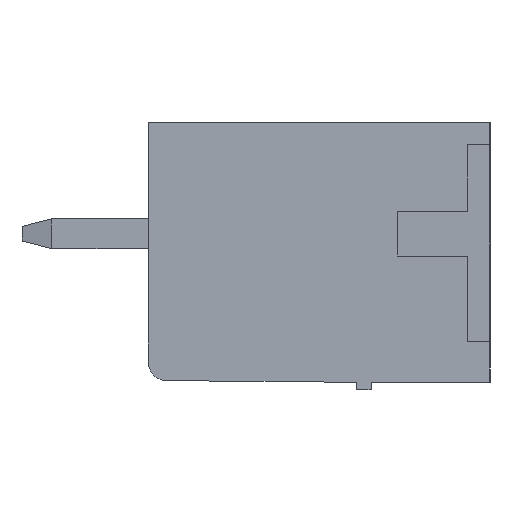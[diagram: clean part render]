
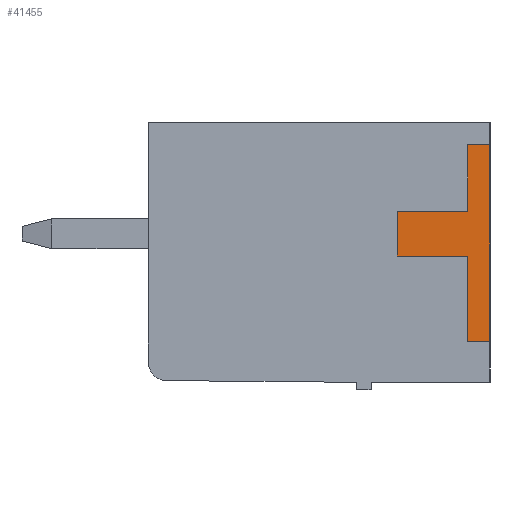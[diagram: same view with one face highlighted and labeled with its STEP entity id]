
A CAD part, left-side view. The second image highlights one B-rep face of the part: STEP entity #41455.
In plain terms, the highlighted planar face has unit normal (-1, 0, 0).
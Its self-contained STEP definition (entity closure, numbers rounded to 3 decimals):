
#100 = PLANE('',#101);
#101 = AXIS2_PLACEMENT_3D('',#102,#103,#104);
#102 = CARTESIAN_POINT('',(0.,0.,7.));
#103 = DIRECTION('',(0.,-1.,0.));
#104 = DIRECTION('',(0.,0.,-1.));
#128 = PLANE('',#129);
#129 = AXIS2_PLACEMENT_3D('',#130,#131,#132);
#130 = CARTESIAN_POINT('',(0.,0.,6.4));
#131 = DIRECTION('',(0.,0.,1.));
#132 = DIRECTION('',(0.,1.,0.));
#156 = PLANE('',#157);
#157 = AXIS2_PLACEMENT_3D('',#158,#159,#160);
#158 = CARTESIAN_POINT('',(0.,0.6,6.4));
#159 = DIRECTION('',(0.,1.,0.));
#160 = DIRECTION('',(0.,0.,-1.));
#184 = PLANE('',#185);
#185 = AXIS2_PLACEMENT_3D('',#186,#187,#188);
#186 = CARTESIAN_POINT('',(0.,0.6,4.6));
#187 = DIRECTION('',(0.,0.,1.));
#188 = DIRECTION('',(0.,1.,0.));
#212 = PLANE('',#213);
#213 = AXIS2_PLACEMENT_3D('',#214,#215,#216);
#214 = CARTESIAN_POINT('',(0.,2.5,4.6));
#215 = DIRECTION('',(0.,1.,0.));
#216 = DIRECTION('',(0.,0.,-1.));
#240 = PLANE('',#241);
#241 = AXIS2_PLACEMENT_3D('',#242,#243,#244);
#242 = CARTESIAN_POINT('',(0.,2.5,3.4));
#243 = DIRECTION('',(0.,0.,-1.));
#244 = DIRECTION('',(0.,-1.,0.));
#268 = PLANE('',#269);
#269 = AXIS2_PLACEMENT_3D('',#270,#271,#272);
#270 = CARTESIAN_POINT('',(0.,0.6,3.4));
#271 = DIRECTION('',(0.,1.,0.));
#272 = DIRECTION('',(0.,0.,-1.));
#296 = PLANE('',#297);
#297 = AXIS2_PLACEMENT_3D('',#298,#299,#300);
#298 = CARTESIAN_POINT('',(0.,0.6,1.1));
#299 = DIRECTION('',(0.,0.,-1.));
#300 = DIRECTION('',(0.,-1.,0.));
#5524 = VERTEX_POINT('',#5525);
#5525 = CARTESIAN_POINT('',(-0.2,0.,1.1));
#5546 = EDGE_CURVE('',#5524,#5547,#5549,.T.);
#5547 = VERTEX_POINT('',#5548);
#5548 = CARTESIAN_POINT('',(-0.2,0.,6.4));
#5549 = SURFACE_CURVE('',#5550,(#5554,#5561),.PCURVE_S1.);
#5550 = LINE('',#5551,#5552);
#5551 = CARTESIAN_POINT('',(-0.2,0.,1.1));
#5552 = VECTOR('',#5553,1.);
#5553 = DIRECTION('',(0.,0.,1.));
#5554 = PCURVE('',#100,#5555);
#5555 = DEFINITIONAL_REPRESENTATION('',(#5556),#5560);
#5556 = LINE('',#5557,#5558);
#5557 = CARTESIAN_POINT('',(5.9,-0.2));
#5558 = VECTOR('',#5559,1.);
#5559 = DIRECTION('',(-1.,0.));
#5560 = ( GEOMETRIC_REPRESENTATION_CONTEXT(2) 
PARAMETRIC_REPRESENTATION_CONTEXT() REPRESENTATION_CONTEXT('2D SPACE',''
  ) );
#5561 = PCURVE('',#5562,#5567);
#5562 = PLANE('',#5563);
#5563 = AXIS2_PLACEMENT_3D('',#5564,#5565,#5566);
#5564 = CARTESIAN_POINT('',(-0.2,0.,0.));
#5565 = DIRECTION('',(-1.,0.,0.));
#5566 = DIRECTION('',(0.,0.,1.));
#5567 = DEFINITIONAL_REPRESENTATION('',(#5568),#5572);
#5568 = LINE('',#5569,#5570);
#5569 = CARTESIAN_POINT('',(1.1,0.));
#5570 = VECTOR('',#5571,1.);
#5571 = DIRECTION('',(1.,0.));
#5572 = ( GEOMETRIC_REPRESENTATION_CONTEXT(2) 
PARAMETRIC_REPRESENTATION_CONTEXT() REPRESENTATION_CONTEXT('2D SPACE',''
  ) );
#41140 = VERTEX_POINT('',#41141);
#41141 = CARTESIAN_POINT('',(-0.2,0.6,1.1));
#41162 = EDGE_CURVE('',#41140,#5524,#41163,.T.);
#41163 = SURFACE_CURVE('',#41164,(#41168,#41175),.PCURVE_S1.);
#41164 = LINE('',#41165,#41166);
#41165 = CARTESIAN_POINT('',(-0.2,0.6,1.1));
#41166 = VECTOR('',#41167,1.);
#41167 = DIRECTION('',(0.,-1.,0.));
#41168 = PCURVE('',#296,#41169);
#41169 = DEFINITIONAL_REPRESENTATION('',(#41170),#41174);
#41170 = LINE('',#41171,#41172);
#41171 = CARTESIAN_POINT('',(0.,0.2));
#41172 = VECTOR('',#41173,1.);
#41173 = DIRECTION('',(1.,0.));
#41174 = ( GEOMETRIC_REPRESENTATION_CONTEXT(2) 
PARAMETRIC_REPRESENTATION_CONTEXT() REPRESENTATION_CONTEXT('2D SPACE',''
  ) );
#41175 = PCURVE('',#5562,#41176);
#41176 = DEFINITIONAL_REPRESENTATION('',(#41177),#41181);
#41177 = LINE('',#41178,#41179);
#41178 = CARTESIAN_POINT('',(1.1,0.6));
#41179 = VECTOR('',#41180,1.);
#41180 = DIRECTION('',(0.,-1.));
#41181 = ( GEOMETRIC_REPRESENTATION_CONTEXT(2) 
PARAMETRIC_REPRESENTATION_CONTEXT() REPRESENTATION_CONTEXT('2D SPACE',''
  ) );
#41189 = VERTEX_POINT('',#41190);
#41190 = CARTESIAN_POINT('',(-0.2,0.6,3.4));
#41211 = EDGE_CURVE('',#41189,#41140,#41212,.T.);
#41212 = SURFACE_CURVE('',#41213,(#41217,#41224),.PCURVE_S1.);
#41213 = LINE('',#41214,#41215);
#41214 = CARTESIAN_POINT('',(-0.2,0.6,3.4));
#41215 = VECTOR('',#41216,1.);
#41216 = DIRECTION('',(0.,0.,-1.));
#41217 = PCURVE('',#268,#41218);
#41218 = DEFINITIONAL_REPRESENTATION('',(#41219),#41223);
#41219 = LINE('',#41220,#41221);
#41220 = CARTESIAN_POINT('',(0.,0.2));
#41221 = VECTOR('',#41222,1.);
#41222 = DIRECTION('',(1.,0.));
#41223 = ( GEOMETRIC_REPRESENTATION_CONTEXT(2) 
PARAMETRIC_REPRESENTATION_CONTEXT() REPRESENTATION_CONTEXT('2D SPACE',''
  ) );
#41224 = PCURVE('',#5562,#41225);
#41225 = DEFINITIONAL_REPRESENTATION('',(#41226),#41230);
#41226 = LINE('',#41227,#41228);
#41227 = CARTESIAN_POINT('',(3.4,0.6));
#41228 = VECTOR('',#41229,1.);
#41229 = DIRECTION('',(-1.,0.));
#41230 = ( GEOMETRIC_REPRESENTATION_CONTEXT(2) 
PARAMETRIC_REPRESENTATION_CONTEXT() REPRESENTATION_CONTEXT('2D SPACE',''
  ) );
#41238 = VERTEX_POINT('',#41239);
#41239 = CARTESIAN_POINT('',(-0.2,2.5,3.4));
#41260 = EDGE_CURVE('',#41238,#41189,#41261,.T.);
#41261 = SURFACE_CURVE('',#41262,(#41266,#41273),.PCURVE_S1.);
#41262 = LINE('',#41263,#41264);
#41263 = CARTESIAN_POINT('',(-0.2,2.5,3.4));
#41264 = VECTOR('',#41265,1.);
#41265 = DIRECTION('',(0.,-1.,0.));
#41266 = PCURVE('',#240,#41267);
#41267 = DEFINITIONAL_REPRESENTATION('',(#41268),#41272);
#41268 = LINE('',#41269,#41270);
#41269 = CARTESIAN_POINT('',(0.,0.2));
#41270 = VECTOR('',#41271,1.);
#41271 = DIRECTION('',(1.,0.));
#41272 = ( GEOMETRIC_REPRESENTATION_CONTEXT(2) 
PARAMETRIC_REPRESENTATION_CONTEXT() REPRESENTATION_CONTEXT('2D SPACE',''
  ) );
#41273 = PCURVE('',#5562,#41274);
#41274 = DEFINITIONAL_REPRESENTATION('',(#41275),#41279);
#41275 = LINE('',#41276,#41277);
#41276 = CARTESIAN_POINT('',(3.4,2.5));
#41277 = VECTOR('',#41278,1.);
#41278 = DIRECTION('',(0.,-1.));
#41279 = ( GEOMETRIC_REPRESENTATION_CONTEXT(2) 
PARAMETRIC_REPRESENTATION_CONTEXT() REPRESENTATION_CONTEXT('2D SPACE',''
  ) );
#41287 = VERTEX_POINT('',#41288);
#41288 = CARTESIAN_POINT('',(-0.2,2.5,4.6));
#41309 = EDGE_CURVE('',#41287,#41238,#41310,.T.);
#41310 = SURFACE_CURVE('',#41311,(#41315,#41322),.PCURVE_S1.);
#41311 = LINE('',#41312,#41313);
#41312 = CARTESIAN_POINT('',(-0.2,2.5,4.6));
#41313 = VECTOR('',#41314,1.);
#41314 = DIRECTION('',(0.,0.,-1.));
#41315 = PCURVE('',#212,#41316);
#41316 = DEFINITIONAL_REPRESENTATION('',(#41317),#41321);
#41317 = LINE('',#41318,#41319);
#41318 = CARTESIAN_POINT('',(0.,0.2));
#41319 = VECTOR('',#41320,1.);
#41320 = DIRECTION('',(1.,0.));
#41321 = ( GEOMETRIC_REPRESENTATION_CONTEXT(2) 
PARAMETRIC_REPRESENTATION_CONTEXT() REPRESENTATION_CONTEXT('2D SPACE',''
  ) );
#41322 = PCURVE('',#5562,#41323);
#41323 = DEFINITIONAL_REPRESENTATION('',(#41324),#41328);
#41324 = LINE('',#41325,#41326);
#41325 = CARTESIAN_POINT('',(4.6,2.5));
#41326 = VECTOR('',#41327,1.);
#41327 = DIRECTION('',(-1.,0.));
#41328 = ( GEOMETRIC_REPRESENTATION_CONTEXT(2) 
PARAMETRIC_REPRESENTATION_CONTEXT() REPRESENTATION_CONTEXT('2D SPACE',''
  ) );
#41336 = VERTEX_POINT('',#41337);
#41337 = CARTESIAN_POINT('',(-0.2,0.6,4.6));
#41358 = EDGE_CURVE('',#41336,#41287,#41359,.T.);
#41359 = SURFACE_CURVE('',#41360,(#41364,#41371),.PCURVE_S1.);
#41360 = LINE('',#41361,#41362);
#41361 = CARTESIAN_POINT('',(-0.2,0.6,4.6));
#41362 = VECTOR('',#41363,1.);
#41363 = DIRECTION('',(0.,1.,0.));
#41364 = PCURVE('',#184,#41365);
#41365 = DEFINITIONAL_REPRESENTATION('',(#41366),#41370);
#41366 = LINE('',#41367,#41368);
#41367 = CARTESIAN_POINT('',(0.,0.2));
#41368 = VECTOR('',#41369,1.);
#41369 = DIRECTION('',(1.,0.));
#41370 = ( GEOMETRIC_REPRESENTATION_CONTEXT(2) 
PARAMETRIC_REPRESENTATION_CONTEXT() REPRESENTATION_CONTEXT('2D SPACE',''
  ) );
#41371 = PCURVE('',#5562,#41372);
#41372 = DEFINITIONAL_REPRESENTATION('',(#41373),#41377);
#41373 = LINE('',#41374,#41375);
#41374 = CARTESIAN_POINT('',(4.6,0.6));
#41375 = VECTOR('',#41376,1.);
#41376 = DIRECTION('',(0.,1.));
#41377 = ( GEOMETRIC_REPRESENTATION_CONTEXT(2) 
PARAMETRIC_REPRESENTATION_CONTEXT() REPRESENTATION_CONTEXT('2D SPACE',''
  ) );
#41385 = VERTEX_POINT('',#41386);
#41386 = CARTESIAN_POINT('',(-0.2,0.6,6.4));
#41407 = EDGE_CURVE('',#41385,#41336,#41408,.T.);
#41408 = SURFACE_CURVE('',#41409,(#41413,#41420),.PCURVE_S1.);
#41409 = LINE('',#41410,#41411);
#41410 = CARTESIAN_POINT('',(-0.2,0.6,6.4));
#41411 = VECTOR('',#41412,1.);
#41412 = DIRECTION('',(0.,0.,-1.));
#41413 = PCURVE('',#156,#41414);
#41414 = DEFINITIONAL_REPRESENTATION('',(#41415),#41419);
#41415 = LINE('',#41416,#41417);
#41416 = CARTESIAN_POINT('',(0.,0.2));
#41417 = VECTOR('',#41418,1.);
#41418 = DIRECTION('',(1.,0.));
#41419 = ( GEOMETRIC_REPRESENTATION_CONTEXT(2) 
PARAMETRIC_REPRESENTATION_CONTEXT() REPRESENTATION_CONTEXT('2D SPACE',''
  ) );
#41420 = PCURVE('',#5562,#41421);
#41421 = DEFINITIONAL_REPRESENTATION('',(#41422),#41426);
#41422 = LINE('',#41423,#41424);
#41423 = CARTESIAN_POINT('',(6.4,0.6));
#41424 = VECTOR('',#41425,1.);
#41425 = DIRECTION('',(-1.,0.));
#41426 = ( GEOMETRIC_REPRESENTATION_CONTEXT(2) 
PARAMETRIC_REPRESENTATION_CONTEXT() REPRESENTATION_CONTEXT('2D SPACE',''
  ) );
#41434 = EDGE_CURVE('',#5547,#41385,#41435,.T.);
#41435 = SURFACE_CURVE('',#41436,(#41440,#41447),.PCURVE_S1.);
#41436 = LINE('',#41437,#41438);
#41437 = CARTESIAN_POINT('',(-0.2,0.,6.4));
#41438 = VECTOR('',#41439,1.);
#41439 = DIRECTION('',(0.,1.,0.));
#41440 = PCURVE('',#128,#41441);
#41441 = DEFINITIONAL_REPRESENTATION('',(#41442),#41446);
#41442 = LINE('',#41443,#41444);
#41443 = CARTESIAN_POINT('',(0.,0.2));
#41444 = VECTOR('',#41445,1.);
#41445 = DIRECTION('',(1.,0.));
#41446 = ( GEOMETRIC_REPRESENTATION_CONTEXT(2) 
PARAMETRIC_REPRESENTATION_CONTEXT() REPRESENTATION_CONTEXT('2D SPACE',''
  ) );
#41447 = PCURVE('',#5562,#41448);
#41448 = DEFINITIONAL_REPRESENTATION('',(#41449),#41453);
#41449 = LINE('',#41450,#41451);
#41450 = CARTESIAN_POINT('',(6.4,0.));
#41451 = VECTOR('',#41452,1.);
#41452 = DIRECTION('',(0.,1.));
#41453 = ( GEOMETRIC_REPRESENTATION_CONTEXT(2) 
PARAMETRIC_REPRESENTATION_CONTEXT() REPRESENTATION_CONTEXT('2D SPACE',''
  ) );
#41455 = ADVANCED_FACE('',(#41456),#5562,.T.);
#41456 = FACE_BOUND('',#41457,.F.);
#41457 = EDGE_LOOP('',(#41458,#41459,#41460,#41461,#41462,#41463,#41464,
    #41465));
#41458 = ORIENTED_EDGE('',*,*,#41434,.F.);
#41459 = ORIENTED_EDGE('',*,*,#5546,.F.);
#41460 = ORIENTED_EDGE('',*,*,#41162,.F.);
#41461 = ORIENTED_EDGE('',*,*,#41211,.F.);
#41462 = ORIENTED_EDGE('',*,*,#41260,.F.);
#41463 = ORIENTED_EDGE('',*,*,#41309,.F.);
#41464 = ORIENTED_EDGE('',*,*,#41358,.F.);
#41465 = ORIENTED_EDGE('',*,*,#41407,.F.);
